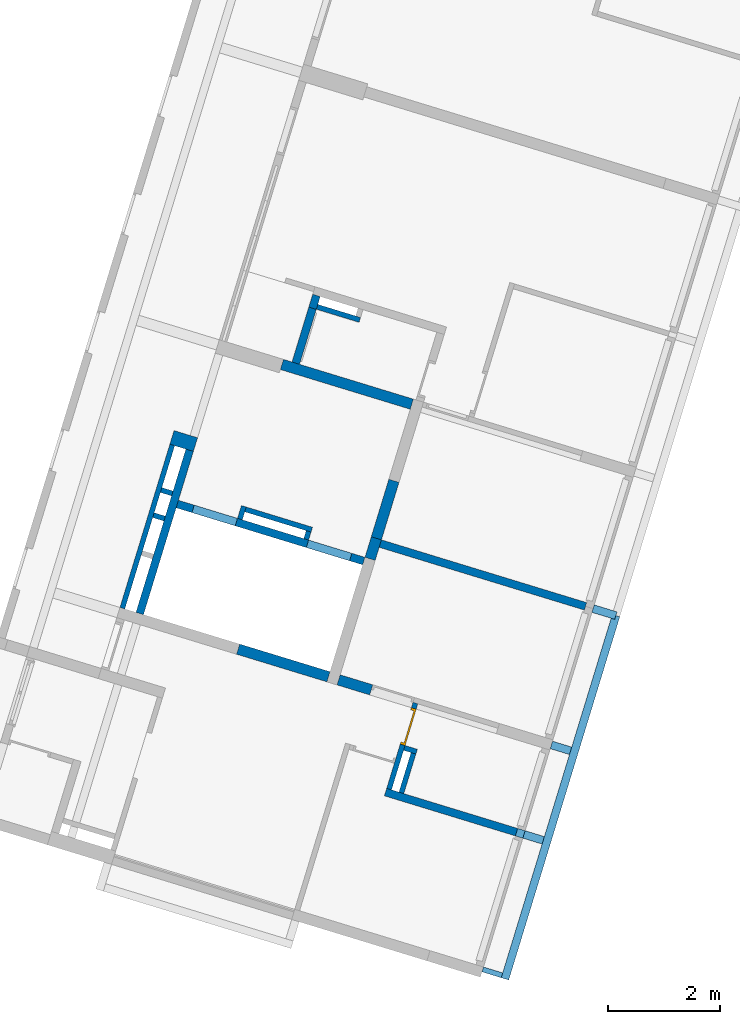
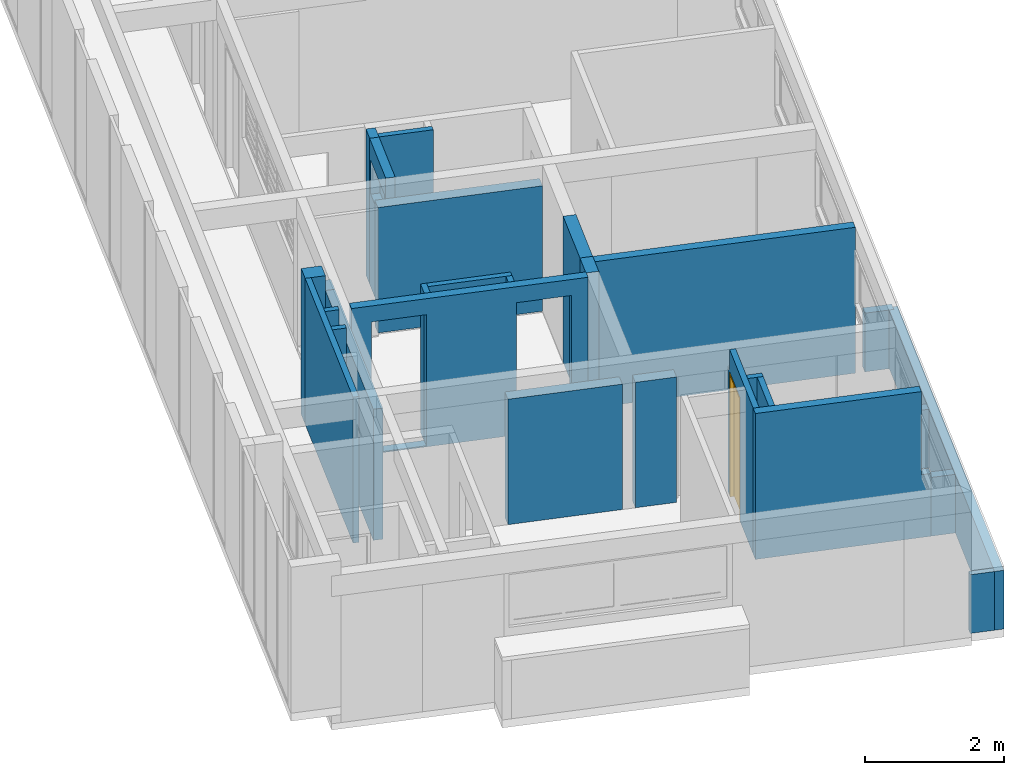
# One storey, part 12 of 18: 26 walls, 1 door, 4 openings.
"""IFC2X3 building model written with IfcOpenShell, lengths in millimetres."""

from ifc_helpers import new_model, entity, si_unit, converted_unit, derived_unit, money_unit, direction, frame, origin_with_axes, place, context, subcontext, project, spatial, faceted_brep, material, type_object, element, fill, save


model = new_model("IFC2X3")

# Units and contexts
model_context = context("Model", 3, precision=0.01, world=origin_with_axes(), true_north=direction((0.0, 1.0)))
body_context = subcontext(model_context, "Body", "Model", "MODEL_VIEW")
ifc_project = project(units=[si_unit("LENGTHUNIT", "METRE", prefix="MILLI"), si_unit("AREAUNIT", "SQUARE_METRE"), si_unit("VOLUMEUNIT", "CUBIC_METRE"), converted_unit("PLANEANGLEUNIT", "DEGREE", entity("IfcPlaneAngleMeasure", 0.0174532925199), si_unit("PLANEANGLEUNIT", "RADIAN"), dimensions=[0, 0, 0, 0, 0, 0, 0]), money_unit("USD"), converted_unit("TIMEUNIT", "Year", entity("IfcTimeMeasure", 31556926.0), si_unit("TIMEUNIT", "SECOND"), dimensions=[0, 0, 1, 0, 0, 0, 0]), si_unit("MASSUNIT", "GRAM", prefix="KILO"), si_unit("THERMODYNAMICTEMPERATUREUNIT", "DEGREE_CELSIUS"), si_unit("LUMINOUSINTENSITYUNIT", "LUMEN"), si_unit("ENERGYUNIT", "JOULE", prefix="MEGA"), derived_unit("THERMALCONDUCTANCEUNIT", [(si_unit("POWERUNIT", "WATT"), 1), (si_unit("LENGTHUNIT", "METRE"), -1), (si_unit("THERMODYNAMICTEMPERATUREUNIT", "KELVIN"), -1)]), derived_unit("SPECIFICHEATCAPACITYUNIT", [(si_unit("ENERGYUNIT", "JOULE"), 1), (si_unit("MASSUNIT", "GRAM", prefix="KILO"), -1), (si_unit("THERMODYNAMICTEMPERATUREUNIT", "KELVIN"), -1)]), derived_unit("MASSDENSITYUNIT", [(si_unit("MASSUNIT", "GRAM", prefix="KILO"), 1), (si_unit("VOLUMEUNIT", "CUBIC_METRE"), -1)])], contexts=[model_context])

# Site, building, storey
site_placement = place(None, frame((0.0, 0.0, 0.0), z_axis=(0.0, 0.0, 1.0), x_axis=(0.956304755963, -0.292371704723, 0.0)))
site = spatial("IfcSite", under=ifc_project, at=site_placement, Name="Site", CompositionType="ELEMENT")
building_placement = place(site_placement, origin_with_axes())
building = spatial("IfcBuilding", under=site, at=building_placement, Name="Building", CompositionType="ELEMENT")
storey_placement = place(building_placement, origin_with_axes())
storey = spatial("IfcBuildingStorey", under=building, at=storey_placement, Name="Pavimento tipo", CompositionType="ELEMENT", Elevation=0.0)

# Wall
ifc_material = material(Name="Tijolo - Estrutural")
wall_type_1 = type_object("IfcWallType", Name="Tijolo - Estrutural 90", PredefinedType="NOTDEFINED")
wall_1_placement = place(storey_placement, frame((1341.71081336, 6619.99196603, -100.0), z_axis=(0.0, 0.0, 1.0), x_axis=(1.0, 0.0, 0.0)))
element("IfcWall", 1, at=wall_1_placement, inside=storey, type_object=wall_type_1, material=ifc_material, Name="Parede 54", context=body_context, shape_type="Brep", body=[
    faceted_brep([(90.0, 0.0, 0.0), (90.0000042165, 90.0, 0.0), (300.000127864, 90.0, 0.0), (300.000127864, 0.0, 0.0), (90.0, 0.0, 2560.0), (90.0000042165, 90.0, 2560.0), (300.000127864, 90.0, 2560.0), (300.000127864, 0.0, 2560.0)], [[[0, 1, 2, 3]], [[0, 4, 5, 1]], [[1, 5, 6, 2]], [[6, 7, 3, 2]], [[4, 0, 3, 7]], [[5, 4, 7, 6]]]),
])

# Space
space_1_placement = place(storey_placement, frame((1481.71507604, 4250.00139822, 0.0), z_axis=(0.0, 0.0, 1.0), x_axis=(3.39571890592e-07, -1.0, 0.0)))
space_1 = spatial("IfcSpace", under=storey, at=space_1_placement, Name="01", CompositionType="ELEMENT", InteriorOrExteriorSpace="INTERNAL")

# Walls
wall_2_placement = place(space_1_placement, frame((4149.99868484, 7959.99533877, 0.0), z_axis=(0.0, 0.0, 1.0), x_axis=(1.89954853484e-05, 0.99999999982, 0.0)))
element("IfcWall", 2, at=wall_2_placement, inside=space_1, type_object=wall_type_1, material=ifc_material, Name="Apt 01 - Parede 42", context=body_context, shape_type="Brep", body=[
    faceted_brep([(0.0, 0.0, 0.0), (0.0, 90.0, 0.0), (359.999551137, 90.0, 0.0), (360.001230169, 0.0, 0.0), (0.0, 0.0, 1030.0), (0.0, 90.0, 1030.0), (359.999551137, 90.0, 1030.0), (360.001230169, 0.0, 1030.0)], [[[0, 1, 2, 3]], [[0, 4, 5, 1]], [[1, 5, 6, 2]], [[6, 7, 3, 2]], [[4, 0, 3, 7]], [[5, 4, 7, 6]]]),
])
wall_3_placement = place(space_1_placement, frame((680.003282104, 5689.99654982, 0.0), z_axis=(0.0, 0.0, 1.0), x_axis=(1.0, -3.39571890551e-07, 0.0)))
element("IfcWall", 3, at=wall_3_placement, inside=space_1, type_object=wall_type_1, material=ifc_material, Name="Apt 01 - Parede 21", context=body_context, shape_type="Brep", body=[
    faceted_brep([(830.000003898, -90.0, 2560.0), (830.000006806, 0.0, 2560.0), (90.0, 0.0, 2560.0), (90.0, -90.0, 2560.0), (830.000003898, -90.0, 0.0), (830.000006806, 0.0, 0.0), (90.0, 0.0, 0.0), (90.0, -90.0, 0.0)], [[[0, 1, 2, 3]], [[1, 0, 4, 5]], [[1, 5, 6, 2]], [[7, 3, 2, 6]], [[4, 0, 3, 7]], [[5, 4, 7, 6]]]),
])

# Wall, opening, door
wall_4_placement = place(space_1_placement, frame((1650.00316991, 5369.99626264, 0.0), z_axis=(0.0, 0.0, 1.0), x_axis=(-1.0, 4.06183983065e-07, 0.0)))
wall_4 = element("IfcWall", 4, at=wall_4_placement, inside=space_1, type_object=wall_type_1, material=ifc_material, Name="Apt 01 - Parede 20", context=body_context, shape_type="Brep", body=[
    faceted_brep([(969.999996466, -89.9999353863, 0.0), (969.999996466, -89.9999353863, 2170.0), (1649.99999647, -89.99989009, 2170.0), (1649.99999647, -89.99989009, 0.0), (1750.0000004, -89.9998834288, 0.0), (1750.0000004, -89.9998834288, 2200.0), (1649.99994336, -89.9998900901, 2200.0), (1649.99994336, -89.9998900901, 2560.0), (140.000003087, -89.9999906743, 2560.0), (140.000003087, -89.9999906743, 0.0), (969.99999047, 6.46137285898e-05, 0.0), (969.99999047, 6.46137312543e-05, 2170.0), (1649.99999047, 0.000109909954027, 2170.0), (1649.99999047, 0.000109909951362, 0.0), (1749.99999441, 0.000116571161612, 0.0), (1749.99999441, 0.000116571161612, 2200.0), (1649.99993841, 0.00010990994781, 2200.0), (1649.99993841, 0.000109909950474, 2560.0), (140.0, 9.32569221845e-06, 2560.0), (140.0, 9.32569221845e-06, 0.0)], [[[0, 1, 2, 3, 4, 5, 6, 7, 8, 9]], [[1, 0, 10, 11]], [[2, 1, 11, 12]], [[3, 2, 12, 13]], [[3, 13, 14, 4]], [[15, 5, 4, 14]], [[6, 5, 15, 16]], [[17, 7, 6, 16]], [[7, 17, 18, 8]], [[8, 18, 19, 9]], [[10, 0, 9, 19]], [[11, 10, 19, 18, 17, 16, 15, 14, 13, 12]]]),
])
opening_1_placement = place(wall_4_placement, frame((1309.99999647, 0.0, 0.0), z_axis=(0.0, 0.0, 1.0), x_axis=(1.0, 0.0, 0.0)))
opening_1 = element("IfcOpeningElement", 5, at=opening_1_placement, cuts=wall_4, Name="Apt 01 - Porta 04", context=body_context, shape_type="Brep", body=[
    faceted_brep([(-339.999999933, -91.0000579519, 2170.0), (-339.999999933, -91.0000579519, 0.0), (340.000000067, -91.0000126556, 0.0), (340.000000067, -91.0000126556, 2170.0), (-340.000006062, 1.00006461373, 2170.0), (-340.000006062, 1.00006461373, 0.0), (339.999993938, 1.00010990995, 0.0), (339.999993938, 1.00010990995, 2170.0)], [[[0, 1, 2, 3]], [[4, 5, 1, 0]], [[5, 6, 2, 1]], [[6, 7, 3, 2]], [[7, 4, 0, 3]], [[6, 5, 4, 7]]]),
])
door_style = type_object("IfcDoorStyle", Name="Door 26", ConstructionType="NOTDEFINED", OperationType="SINGLE_SWING_LEFT", ParameterTakesPrecedence=False, Sizeable=False)
door_placement = place(opening_1_placement, frame((340.0, 0.0, 0.0), z_axis=(0.0, 0.0, 1.0), x_axis=(-1.0, 0.0, 0.0)))
door = element("IfcDoor", 6, at=door_placement, inside=space_1, type_object=door_style, Name="Apt 01 - Porta 04", OverallHeight=2170.0, OverallWidth=680.0, context=body_context, shape_type="Brep", body=[
    faceted_brep([(640.000001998, 59.9999327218, 0.0), (640.000005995, -6.72782132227e-05, 0.0), (640.000005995, -6.72782132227e-05, 2130.0), (640.000001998, 59.9999327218, 2130.0), (650.000001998, 59.9999333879, 0.0), (650.0, 89.9999333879, 0.0), (680.0, 89.9999353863, 0.0), (680.000005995, -6.4613729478e-05, 0.0), (680.000005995, -6.4613729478e-05, 2130.0), (650.000001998, 59.9999333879, 2130.0), (680.0, 89.9999353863, 2130.0), (650.0, 89.9999333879, 2130.0)], [[[0, 1, 2, 3]], [[4, 5, 6, 7, 1, 0]], [[1, 7, 8, 2]], [[9, 3, 2, 8, 10, 11]], [[9, 4, 0, 3]], [[11, 5, 4, 9]], [[11, 10, 6, 5]], [[6, 10, 8, 7]]]),
    faceted_brep([(30.0000019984, 59.9998920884, 2130.0), (30.0, 89.9998920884, 2130.0), (0.0, 89.99989009, 2130.0), (5.99509153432e-06, -0.000109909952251, 2130.0), (40.0000059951, -0.000107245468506, 2130.0), (40.0000019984, 59.9998927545, 2130.0), (30.0000019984, 59.9998920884, 0.0), (30.0, 89.9998920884, 0.0), (0.0, 89.99989009, 0.0), (5.99509153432e-06, -0.000109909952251, 0.0), (40.0000059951, -0.000107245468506, 0.0), (40.0000019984, 59.9998927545, 0.0)], [[[0, 1, 2, 3, 4, 5]], [[0, 6, 7, 1]], [[7, 8, 2, 1]], [[2, 8, 9, 3]], [[3, 9, 10, 4]], [[5, 4, 10, 11]], [[5, 11, 6, 0]], [[6, 11, 10, 9, 8, 7]]]),
    faceted_brep([(650.0, 89.9999333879, 2140.0), (30.0, 89.9998920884, 2140.0), (30.0, 89.9998920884, 2130.0), (0.0, 89.99989009, 2130.0), (0.0, 89.99989009, 2170.0), (680.0, 89.9999353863, 2170.0), (680.0, 89.9999353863, 2130.0), (650.0, 89.9999333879, 2130.0), (650.000001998, 59.9999333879, 2140.0), (30.0000019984, 59.9998920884, 2140.0), (30.0000019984, 59.9998920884, 2130.0), (40.0000019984, 59.9998927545, 2130.0), (40.0000059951, -0.000107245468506, 2130.0), (5.99509153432e-06, -0.000109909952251, 2130.0), (5.99509153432e-06, -0.000109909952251, 2170.0), (680.000005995, -6.4613729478e-05, 2170.0), (680.000005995, -6.4613729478e-05, 2130.0), (650.000001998, 59.9999333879, 2130.0), (640.000005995, -6.72782132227e-05, 2130.0), (640.000001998, 59.9999327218, 2130.0)], [[[0, 1, 2, 3, 4, 5, 6, 7]], [[0, 8, 9, 1]], [[1, 9, 10, 2]], [[10, 11, 12, 13, 3, 2]], [[4, 3, 13, 14]], [[5, 4, 14, 15]], [[6, 5, 15, 16]], [[17, 7, 6, 16, 18, 19]], [[7, 17, 8, 0]], [[10, 9, 8, 17, 19, 11]], [[19, 18, 12, 11]], [[12, 18, 16, 15, 14, 13]]]),
    faceted_brep([(30.0, 89.9998920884, 0.0), (650.0, 89.9999333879, 0.0), (650.000001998, 59.9999333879, 0.0), (30.0000019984, 59.9998920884, 0.0), (30.0, 89.9998920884, 2140.0), (650.0, 89.9999333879, 2140.0), (650.000001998, 59.9999333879, 2140.0), (30.0000019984, 59.9998920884, 2140.0)], [[[0, 1, 2, 3]], [[0, 4, 5, 1]], [[1, 5, 6, 2]], [[3, 2, 6, 7]], [[4, 0, 3, 7]], [[5, 4, 7, 6]]]),
])
fill(opening_1, door)

# Wall
wall_5_placement = place(space_1_placement, frame((680.003173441, 5369.99665663, 0.0), z_axis=(0.0, 0.0, 1.0), x_axis=(3.39571890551e-07, 1.0, 0.0)))
element("IfcWall", 7, at=wall_5_placement, inside=space_1, type_object=wall_type_1, material=ifc_material, Name="Apt 01 - Parede 12", context=body_context, shape_type="Brep", body=[
    faceted_brep([(319.999893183, -90.0, 2560.0), (319.999893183, 0.0, 2560.0), (90.0000000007, 0.0, 2560.0), (89.9999940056, -90.0, 2560.0), (319.999893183, -90.0, 0.0), (319.999893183, 0.0, 0.0), (90.0000000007, 0.0, 0.0), (89.9999940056, -90.0, 0.0)], [[[0, 1, 2, 3]], [[1, 0, 4, 5]], [[1, 5, 6, 2]], [[7, 3, 2, 6]], [[4, 0, 3, 7]], [[5, 4, 7, 6]]]),
])

# Space
space_2_placement = place(storey_placement, frame((3140.00214067, 10657.1710761, 0.0), z_axis=(0.0, 0.0, 1.0), x_axis=(1.0, 0.0, 0.0)))
space_2 = spatial("IfcSpace", under=storey, at=space_2_placement, Name="12", CompositionType="ELEMENT", InteriorOrExteriorSpace="INTERNAL")

# Wall
wall_6_placement = place(space_2_placement, frame((-138.288692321, -87.1710799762, 0.0), z_axis=(0.0, 0.0, 1.0), x_axis=(1.0, 0.0, 0.0)))
element("IfcWall", 8, at=wall_6_placement, inside=space_2, type_object=wall_type_1, material=ifc_material, Name="Apt 02 - Parede 30", context=body_context, shape_type="Brep", body=[
    faceted_brep([(940.000053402, 90.0, 0.0), (940.000086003, 0.0, 0.0), (140.0, 0.0, 0.0), (140.0, 90.0, 0.0), (940.000053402, 90.0, 2560.0), (940.000086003, 0.0, 2560.0), (140.0, 0.0, 2560.0), (140.0, 90.0, 2560.0)], [[[0, 1, 2, 3]], [[1, 0, 4, 5]], [[1, 5, 6, 2]], [[7, 3, 2, 6]], [[4, 0, 3, 7]], [[5, 4, 7, 6]]]),
])

# Space
space_3_placement = place(storey_placement, frame((5271.7107046, 9349.99996852, 0.0), z_axis=(0.0, 0.0, 1.0), x_axis=(-1.0, 0.0, 0.0)))
space_3 = spatial("IfcSpace", under=storey, at=space_3_placement, Name="17", CompositionType="ELEMENT", InteriorOrExteriorSpace="INTERNAL")

# Walls
wall_7_placement = place(space_3_placement, frame((2384.99976337, 2910.00993422, -20.0), z_axis=(0.0, 0.0, 1.0), x_axis=(0.0, -1.0, 0.0)))
element("IfcWall", 9, at=wall_7_placement, inside=space_3, type_object=wall_type_1, material=ifc_material, Name="Parede 73", context=body_context, shape_type="Brep", body=[
    faceted_brep([(380.0, -90.0, 2600.0), (380.0, 0.0, 2600.0), (140.0, 0.0, 2600.0), (140.0, -90.0, 2600.0), (380.0, -90.0, 0.0), (380.0, 0.0, 0.0), (140.0, 0.0, 0.0), (140.0, -90.0, 0.0)], [[[0, 1, 2, 3]], [[1, 0, 4, 5]], [[1, 5, 6, 2]], [[7, 3, 2, 6]], [[4, 0, 3, 7]], [[5, 4, 7, 6]]]),
])
wall_8_placement = place(space_3_placement, frame((2384.99976337, 2530.00993422, -20.0), z_axis=(0.0, 0.0, 1.0), x_axis=(-1.0, 0.0, 0.0)))
element("IfcWall", 10, at=wall_8_placement, inside=space_3, type_object=wall_type_1, material=ifc_material, Name="Parede 72", context=body_context, shape_type="Brep", body=[
    faceted_brep([(1330.0, -90.0, 2600.0), (1330.0, 0.0, 2600.0), (90.0, 0.0, 2600.0), (90.0, -90.0, 2600.0), (1330.0, -90.0, 0.0), (1330.0, 0.0, 0.0), (90.0, 0.0, 0.0), (90.0, -90.0, 0.0)], [[[0, 1, 2, 3]], [[1, 0, 4, 5]], [[1, 5, 6, 2]], [[7, 3, 2, 6]], [[4, 0, 3, 7]], [[5, 4, 7, 6]]]),
])
wall_9_placement = place(space_3_placement, frame((1054.99976337, 2530.00993422, -20.0), z_axis=(0.0, 0.0, 1.0), x_axis=(0.0, 1.0, 0.0)))
element("IfcWall", 11, at=wall_9_placement, inside=space_3, type_object=wall_type_1, material=ifc_material, Name="Parede 74", context=body_context, shape_type="Brep", body=[
    faceted_brep([(240.0, -90.0, 2600.0), (240.0, 0.0, 2600.0), (90.0, 0.0, 2600.0), (90.0, -90.0, 2600.0), (240.0, -90.0, 0.0), (240.0, 0.0, 0.0), (90.0, 0.0, 0.0), (90.0, -90.0, 0.0)], [[[0, 1, 2, 3]], [[1, 0, 4, 5]], [[1, 5, 6, 2]], [[7, 3, 2, 6]], [[4, 0, 3, 7]], [[5, 4, 7, 6]]]),
])
wall_10_placement = place(storey_placement, frame((1341.71071123, 4439.99196603, -100.0), z_axis=(0.0, 0.0, 1.0), x_axis=(4.68494494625e-08, 1.0, 0.0)))
element("IfcWall", 12, at=wall_10_placement, inside=storey, type_object=wall_type_1, material=ifc_material, Name="Parede 62", context=body_context, shape_type="Brep", body=[
    faceted_brep([(3054.99960909, -89.999856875, 2560.0), (3055.0, 0.000143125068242, 2560.0), (0.0, 0.0, 2560.0), (4.21645030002e-06, -90.0, 2560.0), (3054.99960909, -89.999856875, 0.0), (3055.0, 0.000143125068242, 0.0), (0.0, 0.0, 0.0), (4.21645030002e-06, -90.0, 0.0)], [[[0, 1, 2, 3]], [[1, 0, 4, 5]], [[1, 5, 6, 2]], [[7, 3, 2, 6]], [[4, 0, 3, 7]], [[5, 4, 7, 6]]]),
])
wall_11_placement = place(storey_placement, frame((1341.71079134, 6149.99196603, -100.0), z_axis=(0.0, 0.0, 1.0), x_axis=(1.0, 0.0, 0.0)))
element("IfcWall", 13, at=wall_11_placement, inside=storey, type_object=wall_type_1, material=ifc_material, Name="Parede 55", context=body_context, shape_type="Brep", body=[
    faceted_brep([(90.0000042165, 90.0, 0.0), (300.000149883, 90.0, 0.0), (300.000149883, 0.0, 0.0), (90.0, 0.0, 0.0), (90.0000042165, 90.0, 2560.0), (300.000149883, 90.0, 2560.0), (300.000149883, 0.0, 2560.0), (90.0, 0.0, 2560.0)], [[[0, 1, 2, 3]], [[4, 5, 1, 0]], [[6, 2, 1, 5]], [[3, 2, 6, 7]], [[7, 4, 0, 3]], [[7, 6, 5, 4]]]),
])
wall_type_2 = type_object("IfcWallType", Name="Tijolo - Estrutural 140", PredefinedType="NOTDEFINED")
wall_12_placement = place(storey_placement, frame((9441.71344835, 6895.00197121, 0.0), z_axis=(0.0, 0.0, 1.0), x_axis=(0.999999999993, 3.80740513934e-06, 0.0)))
element("IfcWall", 14, at=wall_12_placement, inside=storey, type_object=wall_type_2, material=ifc_material, Name="Parede 45", context=body_context, shape_type="Brep", body=[
    faceted_brep([(0.000266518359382, 69.9999999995, 0.0), (427.894082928, 69.9983708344, 0.0), (427.893549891, -70.0016291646, 0.0), (-0.000266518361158, -69.9999999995, 0.0), (0.000266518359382, 69.9999999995, 1030.0), (427.894082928, 69.9983708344, 1030.0), (427.893549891, -70.0016291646, 1030.0), (-0.000266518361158, -69.9999999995, 1030.0)], [[[0, 1, 2, 3]], [[4, 5, 1, 0]], [[2, 1, 5, 6]], [[3, 2, 6, 7]], [[4, 0, 3, 7]], [[7, 6, 5, 4]]]),
])
wall_13_placement = place(space_1_placement, frame((-2644.98614662, 7819.99923819, 0.0), z_axis=(0.0, 0.0, 1.0), x_axis=(1.2149788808e-07, -1.0, 0.0)))
element("IfcWall", 15, at=wall_13_placement, inside=space_1, type_object=wall_type_2, material=ifc_material, Name="Parede 66", context=body_context, shape_type="Brep", body=[
    faceted_brep([(3840.00278966, -70.0, 2560.0), (3840.00196115, 70.0, 2560.0), (0.0, 70.0, 2560.0), (0.0, -70.0, 2560.0), (3840.00278966, -70.0, 0.0), (3840.00196115, 70.0, 0.0), (0.0, 70.0, 0.0), (0.0, -70.0, 0.0)], [[[0, 1, 2, 3]], [[1, 0, 4, 5]], [[1, 5, 6, 2]], [[7, 3, 2, 6]], [[4, 0, 3, 7]], [[5, 4, 7, 6]]]),
])
wall_14_placement = place(space_1_placement, frame((1650.00316991, 5369.99626264, 0.0), z_axis=(0.0, 0.0, 1.0), x_axis=(3.71885336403e-07, 1.0, 0.0)))
element("IfcWall", 16, at=wall_14_placement, inside=space_1, type_object=wall_type_2, material=ifc_material, Name="Apt 01 - Parede 11", context=body_context, shape_type="Brep", body=[
    faceted_brep([(0.0, 0.0, 2560.0), (2450.00184648, 7.9168002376e-05, 2560.0), (2450.00184043, 140.000079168, 2560.0), (4.80181139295e-06, 140.0, 2560.0), (2450.00061698, 7.91679624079e-05, 1100.0), (0.0, 0.0, 0.0), (2590.00039313, 8.36918374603e-05, 0.0), (2590.00039313, 8.36918374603e-05, 1030.0), (2590.00061698, 8.36918165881e-05, 1100.0), (2450.00062998, 140.000079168, 1100.0), (2590.00062998, 140.000083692, 1100.0), (2590.00038861, 140.000083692, 1030.0), (2590.00038861, 140.000083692, 0.0), (4.80181139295e-06, 140.0, 0.0)], [[[0, 1, 2, 3]], [[4, 1, 0, 5, 6, 7, 8]], [[9, 2, 1, 4]], [[3, 2, 9, 10, 11, 12, 13]], [[13, 5, 0, 3]], [[6, 5, 13, 12]], [[7, 6, 12, 11]], [[7, 11, 10, 8]], [[9, 4, 8, 10]]]),
])
wall_15_placement = place(space_1_placement, frame((1650.00405293, 7959.99687967, 0.0), z_axis=(0.0, 0.0, 1.0), x_axis=(3.39571890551e-07, 1.0, 0.0)))
element("IfcWall", 17, at=wall_15_placement, inside=space_1, type_object=wall_type_2, material=ifc_material, Name="Apt 01 - Parede 43", context=body_context, shape_type="Brep", body=[
    faceted_brep([(360.00053813, 140.0, 0.0), (360.00053813, 0.0, 0.0), (0.0, 0.0, 0.0), (0.0, 140.0, 0.0), (360.00053813, 140.0, 1030.0), (360.00053813, 0.0, 1030.0), (0.0, 0.0, 1030.0), (0.0, 140.0, 1030.0)], [[[0, 1, 2, 3]], [[1, 0, 4, 5]], [[1, 5, 6, 2]], [[7, 3, 2, 6]], [[4, 0, 3, 7]], [[5, 4, 7, 6]]]),
])
wall_16_placement = place(space_1_placement, frame((-94.9959707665, 7959.99769063, 0.0), z_axis=(0.0, 0.0, 1.0), x_axis=(3.39571890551e-07, 1.0, 0.0)))
element("IfcWall", 18, at=wall_16_placement, inside=space_1, type_object=wall_type_2, material=ifc_material, Name="Apt 01 - Parede 44", context=body_context, shape_type="Brep", body=[
    faceted_brep([(0.0, 70.0, 0.0), (360.000319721, 70.0, 0.0), (360.000319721, -70.0, 0.0), (0.0, -70.0, 0.0), (0.0, 70.0, 1030.0), (360.000319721, 70.0, 1030.0), (360.000319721, -70.0, 1030.0), (0.0, -70.0, 1030.0)], [[[0, 1, 2, 3]], [[4, 5, 1, 0]], [[6, 2, 1, 5]], [[3, 2, 6, 7]], [[7, 4, 0, 3]], [[7, 6, 5, 4]]]),
])

# Space
space_4_placement = place(storey_placement, frame((1776.7108663, 4440.00192699, 0.0), z_axis=(0.0, 0.0, 1.0), x_axis=(1.0, 0.0, 0.0)))
space_4 = spatial("IfcSpace", under=storey, at=space_4_placement, Name="07", CompositionType="ELEMENT", InteriorOrExteriorSpace="INTERNAL")

# Walls
wall_17_placement = place(space_4_placement, frame((5.0000749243, 3309.98810732, -100.0), z_axis=(0.0, 0.0, 1.0), x_axis=(0.0, -1.0, 0.0)))
element("IfcWall", 19, at=wall_17_placement, inside=space_4, type_object=wall_type_2, material=ifc_material, Name="Parede 63", context=body_context, shape_type="Brep", body=[
    faceted_brep([(254.999978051, -5.00007492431, 0.0), (254.999385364, -140.0, 0.0), (254.999385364, -139.997492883, 2300.0), (255.000000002, 0.00250711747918, 2300.0), (255.000000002, 0.0, 80.0), (254.999978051, -5.00007492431, 80.0), (3309.9873074, -140.0, 0.0), (1309.99003904, -5.00007492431, 0.0), (1309.99003904, 0.0, 0.0), (3309.98733796, 0.0, 0.0), (3310.0, -140.0, 100.0), (3310.0, -140.0, 2300.0), (3309.98998374, -139.997492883, 2300.0), (3309.98994425, -140.0, 100.0), (3310.0, 0.0, 2300.0), (3309.98998536, 0.00250711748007, 2300.0), (1309.99003904, 0.0, 80.0), (3310.0, 0.0, 100.0), (3309.98987312, 0.0, 100.0), (1309.99003904, -5.00007492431, 80.0)], [[[0, 1, 2, 3, 4, 5]], [[6, 1, 0, 7, 8, 9]], [[10, 11, 12, 2, 1, 6, 13]], [[11, 14, 15, 3, 2, 12]], [[16, 4, 3, 15, 14, 17, 18, 9, 8]], [[4, 16, 19, 5]], [[5, 19, 7, 0]], [[8, 7, 19, 16]], [[18, 13, 6, 9]], [[10, 17, 14, 11]], [[17, 10, 13, 18]]]),
])
wall_18_placement = place(space_2_placement, frame((-138.288692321, 290.000027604, 0.0), z_axis=(0.0, 0.0, 1.0), x_axis=(0.0, -1.0, 0.0)))
element("IfcWall", 20, at=wall_18_placement, inside=space_2, type_object=wall_type_2, material=ifc_material, Name="Apt 02 - Parede 36", context=body_context, shape_type="Brep", body=[
    faceted_brep([(139.99994963, 140.0, 0.0), (380.0, 140.0, 0.0), (380.0, 0.0, 0.0), (140.0, 0.0, 0.0), (139.99994963, 140.0, 2560.0), (380.0, 140.0, 2560.0), (380.0, 0.0, 2560.0), (140.0, 0.0, 2560.0)], [[[0, 1, 2, 3]], [[4, 5, 1, 0]], [[2, 1, 5, 6]], [[3, 2, 6, 7]], [[4, 0, 3, 7]], [[7, 6, 5, 4]]]),
])

# Wall, openings
wall_19_placement = place(space_3_placement, frame((3489.99976337, 2910.00993422, -20.0), z_axis=(0.0, 0.0, 1.0), x_axis=(-1.0, 0.0, 0.0)))
wall_19 = element("IfcWall", 21, at=wall_19_placement, inside=space_3, type_object=wall_type_2, material=ifc_material, Name="Parede 71", context=body_context, shape_type="Brep", body=[
    faceted_brep([(0.0, 0.0, 0.0), (3489.99976337, 0.0, 0.0), (3489.99976337, 0.0, 2600.0), (0.0, 0.0, 2600.0), (0.0, 0.0, 2480.0), (295.0, 0.0, 2320.0), (1105.0, 0.0, 2320.0), (1105.0, 0.0, 20.0), (295.0, 0.0, 20.0), (2435.0, 0.0, 20.0), (2435.0, 0.0, 2320.0), (3245.0, 0.0, 2320.0), (3245.0, 0.0, 20.0), (0.0, 140.0, 0.0), (3489.99976337, 140.0, 0.0), (3489.99976337, 140.0, 2600.0), (0.0, 140.0, 2600.0), (0.0, 140.0, 2480.0), (1105.0, 140.0, 2320.0), (295.0, 140.0, 2320.0), (1105.0, 140.0, 20.0), (295.0, 140.0, 20.0), (2435.0, 140.0, 20.0), (2435.0, 140.0, 2320.0), (3245.0, 140.0, 2320.0), (3245.0, 140.0, 20.0)], [[[0, 1, 2, 3, 4], [5, 6, 7, 8], [9, 10, 11, 12]], [[1, 0, 13, 14]], [[1, 14, 15, 2]], [[2, 15, 16, 3]], [[16, 17, 4, 3]], [[0, 4, 17, 13]], [[18, 6, 5, 19]], [[20, 7, 6, 18]], [[21, 8, 7, 20]], [[19, 5, 8, 21]], [[22, 23, 10, 9]], [[23, 24, 11, 10]], [[24, 25, 12, 11]], [[25, 22, 9, 12]], [[17, 16, 15, 14, 13], [20, 18, 19, 21], [22, 25, 24, 23]]]),
])
opening_2_placement = place(wall_19_placement, frame((700.0, 0.0, 20.0), z_axis=(0.0, 0.0, 1.0), x_axis=(1.0, 0.0, 0.0)))
element("IfcOpeningElement", 22, at=opening_2_placement, cuts=wall_19, Name="Porta 10", context=body_context, shape_type="Brep", body=[
    faceted_brep([(-405.0, -1.0, 2300.0), (-405.0, -1.0, 0.0), (405.0, -1.0, 0.0), (405.0, -1.0, 2300.0), (-405.0, 141.0, 2300.0), (-405.0, 141.0, 0.0), (405.0, 141.0, 0.0), (405.0, 141.0, 2300.0)], [[[0, 1, 2, 3]], [[4, 5, 1, 0]], [[5, 6, 2, 1]], [[6, 7, 3, 2]], [[7, 4, 0, 3]], [[6, 5, 4, 7]]]),
])
opening_3_placement = place(wall_19_placement, frame((2840.0, 0.0, 20.0), z_axis=(0.0, 0.0, 1.0), x_axis=(1.0, 0.0, 0.0)))
element("IfcOpeningElement", 23, at=opening_3_placement, cuts=wall_19, Name="Porta 11", context=body_context, shape_type="Brep", body=[
    faceted_brep([(-405.0, -1.0, 2300.0), (-405.0, -1.0, 0.0), (405.0, -1.0, 0.0), (405.0, -1.0, 2300.0), (-405.0, 141.0, 2300.0), (-405.0, 141.0, 0.0), (405.0, 141.0, 0.0), (405.0, 141.0, 2300.0)], [[[0, 1, 2, 3]], [[4, 5, 1, 0]], [[5, 6, 2, 1]], [[6, 7, 3, 2]], [[7, 4, 0, 3]], [[6, 5, 4, 7]]]),
])

# Space
space_5_placement = place(storey_placement, frame((2841.71099896, 14449.9999947, 0.0), z_axis=(0.0, 0.0, 1.0), x_axis=(6.32291681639e-07, -1.0, 0.0)))
space_5 = spatial("IfcSpace", under=storey, at=space_5_placement, Name="02", CompositionType="ELEMENT", InteriorOrExteriorSpace="INTERNAL")

# Wall, opening
wall_20_placement = place(space_5_placement, frame((3882.82899217, 159.999994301, 0.0), z_axis=(0.0, 0.0, 1.0), x_axis=(1.0, -6.32291681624e-07, 0.0)))
wall_20 = element("IfcWall", 24, at=wall_20_placement, inside=space_5, type_object=wall_type_2, material=ifc_material, Name="Apt 02 - Parede 35", context=body_context, shape_type="Brep", body=[
    faceted_brep([(1027.18099953, 0.0, 2560.0), (0.0, 0.0, 2560.0), (0.0, 0.0, 0.0), (1027.17110758, 0.0, 0.0), (953.58555379, 0.0, 1630.0), (73.5855537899, 0.0, 1630.0), (73.5855537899, 0.0, 2220.0), (953.58555379, 0.0, 2220.0), (1027.18100114, 140.0, 2560.0), (0.0, 140.0, 2560.0), (0.0, 140.0, 0.0), (1027.17110758, 140.0, 0.0), (953.58555379, 140.0, 1630.0), (73.5855537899, 140.0, 1630.0), (73.5855537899, 140.0, 2220.0), (953.58555379, 140.0, 2220.0)], [[[0, 1, 2, 3], [4, 5, 6, 7]], [[0, 8, 9, 1]], [[2, 1, 9, 10]], [[10, 11, 3, 2]], [[8, 0, 3, 11]], [[12, 13, 5, 4]], [[13, 14, 6, 5]], [[14, 15, 7, 6]], [[15, 12, 4, 7]], [[8, 11, 10, 9], [12, 15, 14, 13]]]),
])
opening_4_placement = place(wall_20_placement, frame((513.58555379, 0.0, 1630.0), z_axis=(0.0, 0.0, 1.0), x_axis=(1.0, 0.0, 0.0)))
element("IfcOpeningElement", 25, at=opening_4_placement, cuts=wall_20, Name="Apt 02 - J13", context=body_context, shape_type="Brep", body=[
    faceted_brep([(440.0, 140.0, 590.0), (-440.0, 140.0, 590.0), (-440.0, -1.0, 590.0), (440.0, -1.0, 590.0), (-455.0, 140.0, 605.0), (-455.0, 140.0, -15.0), (455.0, 140.0, -15.0), (455.0, 140.0, 605.0), (-440.0, 140.0, 0.0), (440.0, 140.0, 0.0), (-440.0, -1.0, 0.0), (440.0, -1.0, 0.0), (-455.0, 141.0, 605.0), (-455.0, 141.0, -15.0), (455.0, 141.0, -15.0), (455.0, 141.0, 605.0)], [[[0, 1, 2, 3]], [[4, 5, 6, 7], [8, 1, 0, 9]], [[1, 8, 10, 2]], [[10, 11, 3, 2]], [[9, 0, 3, 11]], [[5, 4, 12, 13]], [[6, 5, 13, 14]], [[7, 6, 14, 15]], [[4, 7, 15, 12]], [[8, 9, 11, 10]], [[14, 13, 12, 15]]]),
])

# Walls
wall_21_placement = place(storey_placement, frame((9941.71305414, 99.9960883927, 0.0), z_axis=(0.0, 0.0, 1.0), x_axis=(0.0, 1.0, 0.0)))
element("IfcWall", 26, at=wall_21_placement, inside=storey, type_object=wall_type_2, material=ifc_material, Name="Apt 01 - Parede 58", context=body_context, shape_type="Brep", body=[
    faceted_brep([(0.00261182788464, 140.0, 0.0), (6795.00930964, 140.0, 0.0), (6795.00930964, 0.0, 0.0), (0.0, 0.0, 0.0), (0.00261182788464, 140.0, 1030.0), (6795.00930964, 140.0, 1030.0), (6795.00930964, 0.0, 1030.0), (0.0, 0.0, 1030.0)], [[[0, 1, 2, 3]], [[4, 5, 1, 0]], [[2, 1, 5, 6]], [[3, 2, 6, 7]], [[4, 0, 3, 7]], [[7, 6, 5, 4]]]),
])
wall_type_3 = type_object("IfcWallType", Name="Tijolo - Estrutural 190", PredefinedType="NOTDEFINED")
wall_22_placement = place(storey_placement, frame((5271.71097365, 9444.99999613, 0.0), z_axis=(0.0, 0.0, 1.0), x_axis=(-1.0, 0.0, 0.0)))
element("IfcWall", 27, at=wall_22_placement, inside=storey, type_object=wall_type_3, material=ifc_material, Name="Apt 02 - Parede 28", context=body_context, shape_type="Brep", body=[
    faceted_brep([(0.0, -95.0, 0.0), (0.0, 95.0, 0.0), (2429.9999908, 95.0, 0.0), (2429.9999908, -95.0, 0.0), (0.0, -95.0, 2200.0), (0.0, 95.0, 2200.0), (2429.9999908, 95.0, 2200.0), (2429.9999908, -95.0, 2200.0)], [[[0, 1, 2, 3]], [[4, 5, 1, 0]], [[1, 5, 6, 2]], [[7, 3, 2, 6]], [[4, 0, 3, 7]], [[5, 4, 7, 6]]]),
])
wall_23_placement = place(storey_placement, frame((5366.71102185, 6894.99988601, 0.0), z_axis=(0.0, 0.0, 1.0), x_axis=(-4.20997939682e-08, 1.0, 0.0)))
element("IfcWall", 28, at=wall_23_placement, inside=storey, type_object=wall_type_3, material=ifc_material, Name="Apt 02 - Parede 38", context=body_context, shape_type="Brep", body=[
    faceted_brep([(-3.99948074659e-06, -95.0, 0.0), (3.99947985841e-06, 95.0, 0.0), (1145.00007884, 94.9999517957, 0.0), (1145.00007085, -95.0000482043, 0.0), (-3.99948074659e-06, -95.0, 2560.0), (3.99947985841e-06, 95.0, 2560.0), (1145.00007884, 94.9999517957, 2560.0), (1145.00007085, -95.0000482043, 2560.0)], [[[0, 1, 2, 3]], [[4, 5, 1, 0]], [[1, 5, 6, 2]], [[7, 3, 2, 6]], [[4, 0, 3, 7]], [[5, 4, 7, 6]]]),
])
wall_24_placement = place(storey_placement, frame((5366.71104066, 6894.98838598, 0.0), z_axis=(0.0, 0.0, 1.0), x_axis=(6.37899604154e-06, -0.99999999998, 0.0)))
element("IfcWall", 29, at=wall_24_placement, inside=storey, type_object=wall_type_3, material=ifc_material, Name="Parede 64", context=body_context, shape_type="Brep", body=[
    faceted_brep([(-69.9994377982, 95.0, 2560.0), (-70.0005622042, -95.0, 2560.0), (314.998351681, -95.0, 2560.0), (314.998351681, 95.0, 2560.0), (-69.9994377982, 95.0, 0.0), (-70.0005622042, -95.0, 0.0), (314.998351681, -95.0, 0.0), (314.998351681, 95.0, 0.0)], [[[0, 1, 2, 3]], [[4, 5, 1, 0]], [[1, 5, 6, 2]], [[7, 3, 2, 6]], [[4, 0, 3, 7]], [[5, 4, 7, 6]]]),
])
wall_25_placement = place(space_1_placement, frame((-189.997916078, 2099.99556399, 0.0), z_axis=(0.0, 0.0, 1.0), x_axis=(3.39571890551e-07, 1.0, 0.0)))
element("IfcWall", 30, at=wall_25_placement, inside=space_1, type_object=wall_type_3, material=ifc_material, Name="Apt 01 - Parede 13", context=body_context, shape_type="Brep", body=[
    faceted_brep([(0.000404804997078, -190.000000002, 2200.0), (1690.00287284, -190.009993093, 2200.0), (1690.00287284, 0.0, 2200.0), (0.0, 0.0, 2200.0), (0.0, -190.0, 0.0), (1690.00287284, -190.009993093, 0.0), (1690.00287284, 0.0, 0.0), (0.0, -0.00999309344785, 0.0)], [[[0, 1, 2, 3]], [[4, 5, 1, 0]], [[5, 6, 2, 1]], [[3, 2, 6, 7]], [[0, 3, 7, 4]], [[7, 6, 5, 4]]]),
    faceted_brep([(2490.00013202, 0.0, 0.0), (1880.00287284, 0.0, 0.0), (1880.00287284, 0.0, 2200.0), (2490.00013202, 0.0, 2200.0), (2490.00013202, -190.0, 0.0), (1880.00287284, -190.009993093, 0.0), (1880.00287284, -190.009993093, 2200.0), (2490.00013202, -190.0, 2200.0)], [[[0, 1, 2, 3]], [[4, 5, 1, 0]], [[5, 6, 2, 1]], [[3, 2, 6, 7]], [[7, 4, 0, 3]], [[7, 6, 5, 4]]]),
])
wall_type_4 = type_object("IfcWallType", Name="Tijolo - Estrutural 255", PredefinedType="NOTDEFINED")
wall_26_placement = place(space_3_placement, frame((3929.99983829, 1600.0080025, -100.0), z_axis=(0.0, 0.0, 1.0), x_axis=(-0.99999999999, 4.39027338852e-06, 0.0)))
element("IfcWall", 31, at=wall_26_placement, inside=space_3, type_object=wall_type_4, material=ifc_material, Name="Parede 53", context=body_context, shape_type="Brep", body=[
    faceted_brep([(0.0, 0.0, 2560.0), (300.002582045, 0.0, 2560.0), (300.002582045, 0.0, 2300.0), (440.002582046, 1.10080833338e-08, 2300.0), (440.000074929, 0.0, 80.0), (435.000000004, 0.0, 80.0), (435.000000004, 0.0, 0.0), (0.0, 0.0, 0.0), (0.00110757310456, -255.0, 2560.0), (300.003701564, -255.0, 2560.0), (300.003701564, -255.0, 2300.0), (440.003701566, -254.999999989, 2300.0), (440.001194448, -255.0, 80.0), (435.001119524, -255.0, 80.0), (435.001119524, -255.0, 0.0), (0.00110757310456, -255.0, 0.0)], [[[0, 1, 2, 3, 4, 5, 6, 7]], [[8, 9, 1, 0]], [[10, 2, 1, 9]], [[10, 11, 3, 2]], [[4, 3, 11, 12]], [[12, 13, 5, 4]], [[13, 14, 6, 5]], [[15, 7, 6, 14]], [[0, 7, 15, 8]], [[11, 10, 9, 8, 15, 14, 13, 12]]]),
])

save(model, "model.ifc")
